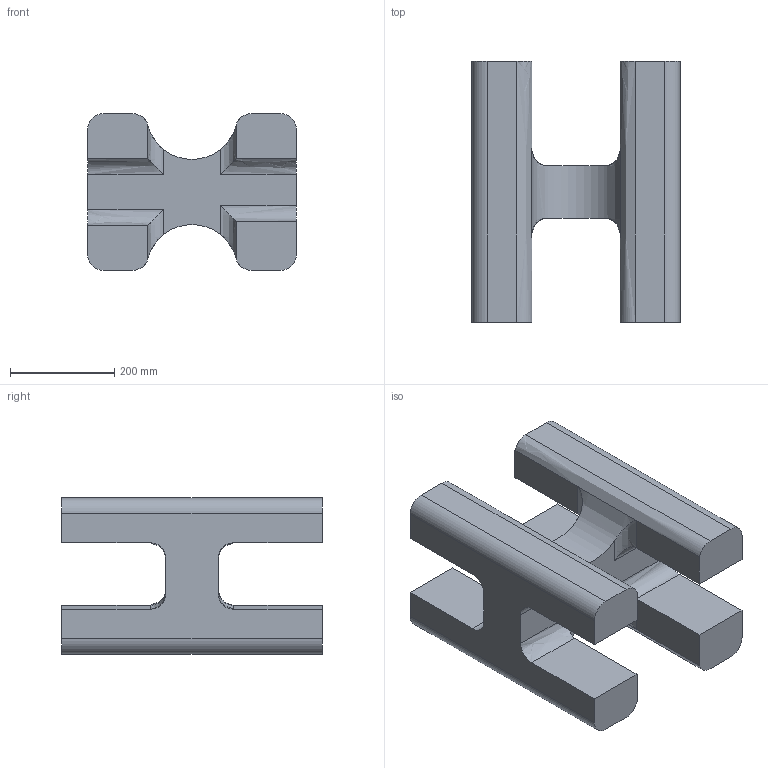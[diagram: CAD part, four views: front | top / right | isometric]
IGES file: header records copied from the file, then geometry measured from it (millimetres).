
Start section:  PTC IGES file: het_to_tet_mesh_proe_02.igs
Global section: file name: het_to_tet_mesh_proe_02.igs; native system: Pro/ENGINEER by Parametric Technology Corporation; preprocessor: 2006010; author: Administrator; organization: Unknown; date: 20070306.101804; units: millimetre
Bounding box: 400 x 500 x 300 mm (x, y, z)
Volume: 25471035.5 mm3; surface area: 939006 mm2
Topology: 1 solids, 1 shells, 58 faces, 152 edges, 96 vertices
Faces by surface type: bspline 32, revolution 26
